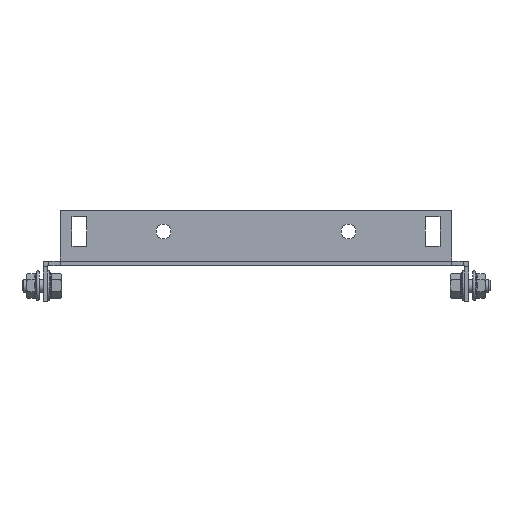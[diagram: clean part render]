
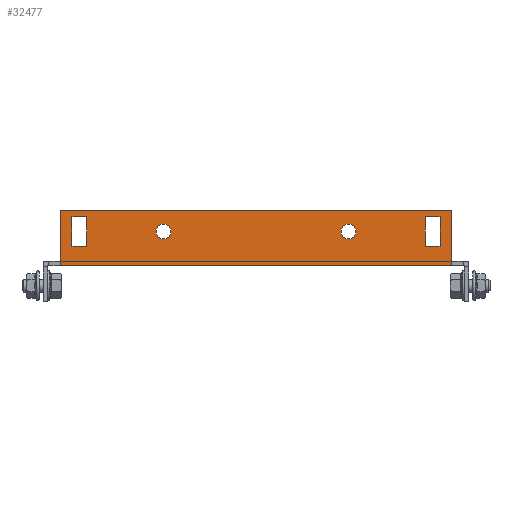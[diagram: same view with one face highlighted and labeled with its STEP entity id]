
A CAD part, front view. The second image highlights one B-rep face of the part: STEP entity #32477.
In plain terms, the highlighted planar face has unit normal (0, -1, 0).
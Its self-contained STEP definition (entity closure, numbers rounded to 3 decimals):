
#29742 = VERTEX_POINT('',#29743);
#29743 = CARTESIAN_POINT('',(92.,-384.5,0.));
#29749 = EDGE_CURVE('',#29750,#29742,#29752,.T.);
#29750 = VERTEX_POINT('',#29751);
#29751 = CARTESIAN_POINT('',(-92.,-384.5,0.));
#29752 = LINE('',#29753,#29754);
#29753 = CARTESIAN_POINT('',(-92.,-384.5,0.));
#29754 = VECTOR('',#29755,1.);
#29755 = DIRECTION('',(1.,-0.,-0.));
#32356 = VERTEX_POINT('',#32357);
#32357 = CARTESIAN_POINT('',(-92.,-384.5,2.6));
#32372 = EDGE_CURVE('',#32356,#29750,#32373,.T.);
#32373 = LINE('',#32374,#32375);
#32374 = CARTESIAN_POINT('',(-92.,-384.5,2.6));
#32375 = VECTOR('',#32376,1.);
#32376 = DIRECTION('',(0.,0.,-1.));
#32396 = VERTEX_POINT('',#32397);
#32397 = CARTESIAN_POINT('',(92.,-384.5,2.6));
#32403 = EDGE_CURVE('',#32396,#29742,#32404,.T.);
#32404 = LINE('',#32405,#32406);
#32405 = CARTESIAN_POINT('',(92.,-384.5,2.));
#32406 = VECTOR('',#32407,1.);
#32407 = DIRECTION('',(-0.,0.,-1.));
#32429 = VERTEX_POINT('',#32430);
#32430 = CARTESIAN_POINT('',(92.,-384.5,26.));
#32436 = EDGE_CURVE('',#32396,#32429,#32437,.T.);
#32437 = LINE('',#32438,#32439);
#32438 = CARTESIAN_POINT('',(92.,-384.5,26.));
#32439 = VECTOR('',#32440,1.);
#32440 = DIRECTION('',(0.,0.,1.));
#32451 = EDGE_CURVE('',#32452,#32356,#32454,.T.);
#32452 = VERTEX_POINT('',#32453);
#32453 = CARTESIAN_POINT('',(-92.,-384.5,26.));
#32454 = LINE('',#32455,#32456);
#32455 = CARTESIAN_POINT('',(-92.,-384.5,2.));
#32456 = VECTOR('',#32457,1.);
#32457 = DIRECTION('',(0.,0.,-1.));
#32477 = ADVANCED_FACE('',(#32478,#32512,#32523,#32534,#32568),#32581,
  .F.);
#32478 = FACE_BOUND('',#32479,.T.);
#32479 = EDGE_LOOP('',(#32480,#32490,#32498,#32506));
#32480 = ORIENTED_EDGE('',*,*,#32481,.F.);
#32481 = EDGE_CURVE('',#32482,#32484,#32486,.T.);
#32482 = VERTEX_POINT('',#32483);
#32483 = CARTESIAN_POINT('',(86.5,-384.5,9.));
#32484 = VERTEX_POINT('',#32485);
#32485 = CARTESIAN_POINT('',(86.5,-384.5,23.));
#32486 = LINE('',#32487,#32488);
#32487 = CARTESIAN_POINT('',(86.5,-384.5,23.));
#32488 = VECTOR('',#32489,1.);
#32489 = DIRECTION('',(-0.,-0.,1.));
#32490 = ORIENTED_EDGE('',*,*,#32491,.F.);
#32491 = EDGE_CURVE('',#32492,#32482,#32494,.T.);
#32492 = VERTEX_POINT('',#32493);
#32493 = CARTESIAN_POINT('',(79.5,-384.5,9.));
#32494 = LINE('',#32495,#32496);
#32495 = CARTESIAN_POINT('',(86.5,-384.5,9.));
#32496 = VECTOR('',#32497,1.);
#32497 = DIRECTION('',(1.,-0.,-0.));
#32498 = ORIENTED_EDGE('',*,*,#32499,.F.);
#32499 = EDGE_CURVE('',#32500,#32492,#32502,.T.);
#32500 = VERTEX_POINT('',#32501);
#32501 = CARTESIAN_POINT('',(79.5,-384.5,23.));
#32502 = LINE('',#32503,#32504);
#32503 = CARTESIAN_POINT('',(79.5,-384.5,9.));
#32504 = VECTOR('',#32505,1.);
#32505 = DIRECTION('',(-0.,-0.,-1.));
#32506 = ORIENTED_EDGE('',*,*,#32507,.F.);
#32507 = EDGE_CURVE('',#32484,#32500,#32508,.T.);
#32508 = LINE('',#32509,#32510);
#32509 = CARTESIAN_POINT('',(79.5,-384.5,23.));
#32510 = VECTOR('',#32511,1.);
#32511 = DIRECTION('',(-1.,-0.,-0.));
#32512 = FACE_BOUND('',#32513,.T.);
#32513 = EDGE_LOOP('',(#32514));
#32514 = ORIENTED_EDGE('',*,*,#32515,.F.);
#32515 = EDGE_CURVE('',#32516,#32516,#32518,.T.);
#32516 = VERTEX_POINT('',#32517);
#32517 = CARTESIAN_POINT('',(43.5,-384.5,19.5));
#32518 = CIRCLE('',#32519,3.5);
#32519 = AXIS2_PLACEMENT_3D('',#32520,#32521,#32522);
#32520 = CARTESIAN_POINT('',(43.5,-384.5,16.));
#32521 = DIRECTION('',(0.,-1.,0.));
#32522 = DIRECTION('',(0.,0.,1.));
#32523 = FACE_BOUND('',#32524,.T.);
#32524 = EDGE_LOOP('',(#32525));
#32525 = ORIENTED_EDGE('',*,*,#32526,.F.);
#32526 = EDGE_CURVE('',#32527,#32527,#32529,.T.);
#32527 = VERTEX_POINT('',#32528);
#32528 = CARTESIAN_POINT('',(-43.5,-384.5,12.5));
#32529 = CIRCLE('',#32530,3.5);
#32530 = AXIS2_PLACEMENT_3D('',#32531,#32532,#32533);
#32531 = CARTESIAN_POINT('',(-43.5,-384.5,16.));
#32532 = DIRECTION('',(0.,-1.,0.));
#32533 = DIRECTION('',(0.,0.,-1.));
#32534 = FACE_BOUND('',#32535,.T.);
#32535 = EDGE_LOOP('',(#32536,#32546,#32554,#32562));
#32536 = ORIENTED_EDGE('',*,*,#32537,.F.);
#32537 = EDGE_CURVE('',#32538,#32540,#32542,.T.);
#32538 = VERTEX_POINT('',#32539);
#32539 = CARTESIAN_POINT('',(-86.5,-384.5,23.));
#32540 = VERTEX_POINT('',#32541);
#32541 = CARTESIAN_POINT('',(-86.5,-384.5,9.));
#32542 = LINE('',#32543,#32544);
#32543 = CARTESIAN_POINT('',(-86.5,-384.5,9.));
#32544 = VECTOR('',#32545,1.);
#32545 = DIRECTION('',(-0.,-0.,-1.));
#32546 = ORIENTED_EDGE('',*,*,#32547,.F.);
#32547 = EDGE_CURVE('',#32548,#32538,#32550,.T.);
#32548 = VERTEX_POINT('',#32549);
#32549 = CARTESIAN_POINT('',(-79.5,-384.5,23.));
#32550 = LINE('',#32551,#32552);
#32551 = CARTESIAN_POINT('',(-86.5,-384.5,23.));
#32552 = VECTOR('',#32553,1.);
#32553 = DIRECTION('',(-1.,-0.,-0.));
#32554 = ORIENTED_EDGE('',*,*,#32555,.F.);
#32555 = EDGE_CURVE('',#32556,#32548,#32558,.T.);
#32556 = VERTEX_POINT('',#32557);
#32557 = CARTESIAN_POINT('',(-79.5,-384.5,9.));
#32558 = LINE('',#32559,#32560);
#32559 = CARTESIAN_POINT('',(-79.5,-384.5,23.));
#32560 = VECTOR('',#32561,1.);
#32561 = DIRECTION('',(-0.,-0.,1.));
#32562 = ORIENTED_EDGE('',*,*,#32563,.F.);
#32563 = EDGE_CURVE('',#32540,#32556,#32564,.T.);
#32564 = LINE('',#32565,#32566);
#32565 = CARTESIAN_POINT('',(-79.5,-384.5,9.));
#32566 = VECTOR('',#32567,1.);
#32567 = DIRECTION('',(1.,-0.,-0.));
#32568 = FACE_BOUND('',#32569,.T.);
#32569 = EDGE_LOOP('',(#32570,#32571,#32572,#32573,#32574,#32575));
#32570 = ORIENTED_EDGE('',*,*,#32451,.T.);
#32571 = ORIENTED_EDGE('',*,*,#32372,.T.);
#32572 = ORIENTED_EDGE('',*,*,#29749,.T.);
#32573 = ORIENTED_EDGE('',*,*,#32403,.F.);
#32574 = ORIENTED_EDGE('',*,*,#32436,.T.);
#32575 = ORIENTED_EDGE('',*,*,#32576,.T.);
#32576 = EDGE_CURVE('',#32429,#32452,#32577,.T.);
#32577 = LINE('',#32578,#32579);
#32578 = CARTESIAN_POINT('',(-92.,-384.5,26.));
#32579 = VECTOR('',#32580,1.);
#32580 = DIRECTION('',(-1.,-0.,-0.));
#32581 = PLANE('',#32582);
#32582 = AXIS2_PLACEMENT_3D('',#32583,#32584,#32585);
#32583 = CARTESIAN_POINT('',(92.,-384.5,2.));
#32584 = DIRECTION('',(-0.,1.,0.));
#32585 = DIRECTION('',(0.,0.,1.));
